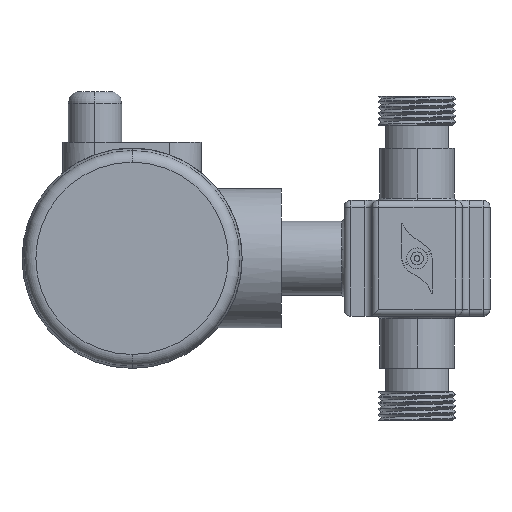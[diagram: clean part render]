
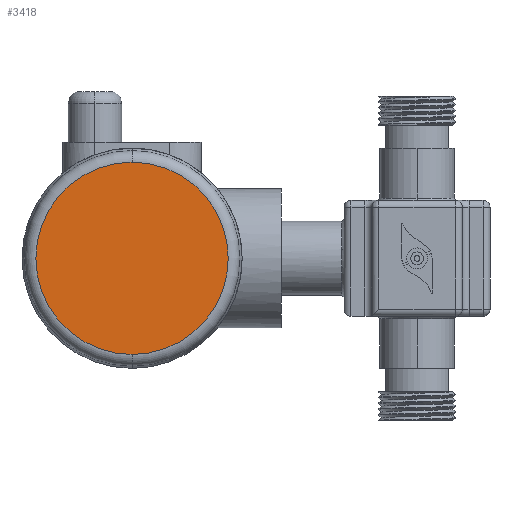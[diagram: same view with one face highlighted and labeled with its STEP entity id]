
A CAD part, left-side view. The second image highlights one B-rep face of the part: STEP entity #3418.
In plain terms, the highlighted planar face has unit normal (-1, 0, 0).
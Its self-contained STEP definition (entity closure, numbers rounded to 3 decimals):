
#344 = EDGE_CURVE ( 'NONE', #5981, #3166, #7014, .T. ) ;
#1091 = CARTESIAN_POINT ( 'NONE',  ( -62., 123., -70. ) ) ;
#1178 = ORIENTED_EDGE ( 'NONE', *, *, #7899, .T. ) ;
#1275 = CARTESIAN_POINT ( 'NONE',  ( -62., 123., -70. ) ) ;
#1465 = CIRCLE ( 'NONE', #2577, 41.5 ) ;
#1573 = DIRECTION ( 'NONE',  ( 1., 0., 0. ) ) ;
#1945 = DIRECTION ( 'NONE',  ( 0., 0., -1. ) ) ;
#2577 = AXIS2_PLACEMENT_3D ( 'NONE', #1275, #3896, #1945 ) ;
#3144 = ORIENTED_EDGE ( 'NONE', *, *, #344, .T. ) ;
#3166 = VERTEX_POINT ( 'NONE', #7029 ) ;
#3418 = ADVANCED_FACE ( 'NONE', ( #4701 ), #4736, .F. ) ;
#3896 = DIRECTION ( 'NONE',  ( -1., 0., 0. ) ) ;
#4701 = FACE_OUTER_BOUND ( 'NONE', #7656, .T. ) ;
#4736 = PLANE ( 'NONE',  #5549 ) ;
#5402 = DIRECTION ( 'NONE',  ( 0., 0., -1. ) ) ;
#5549 = AXIS2_PLACEMENT_3D ( 'NONE', #6035, #1573, #5402 ) ;
#5981 = VERTEX_POINT ( 'NONE', #7314 ) ;
#6035 = CARTESIAN_POINT ( 'NONE',  ( -62., 123., -116.5 ) ) ;
#6972 = AXIS2_PLACEMENT_3D ( 'NONE', #1091, #7007, #8109 ) ;
#7007 = DIRECTION ( 'NONE',  ( -1., 0., 0. ) ) ;
#7014 = CIRCLE ( 'NONE', #6972, 41.5 ) ;
#7029 = CARTESIAN_POINT ( 'NONE',  ( -62., 123., -28.5 ) ) ;
#7314 = CARTESIAN_POINT ( 'NONE',  ( -62., 123., -111.5 ) ) ;
#7656 = EDGE_LOOP ( 'NONE', ( #3144, #1178 ) ) ;
#7899 = EDGE_CURVE ( 'NONE', #3166, #5981, #1465, .T. ) ;
#8109 = DIRECTION ( 'NONE',  ( 0., 0., -1. ) ) ;
